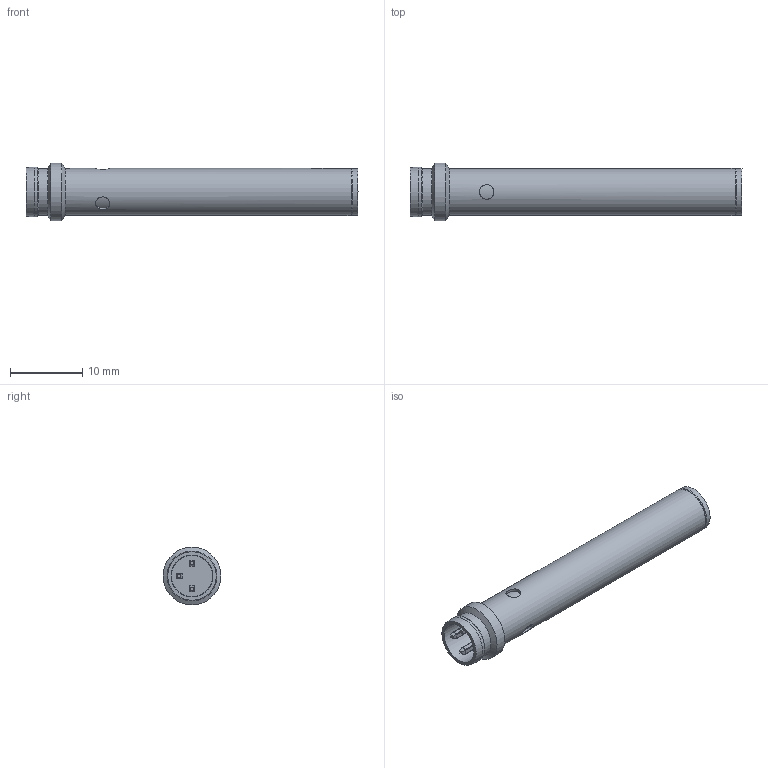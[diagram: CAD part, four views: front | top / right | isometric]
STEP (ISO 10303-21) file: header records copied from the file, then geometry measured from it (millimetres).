
FILE_DESCRIPTION( ( 'Unknown' ), '1' );
FILE_NAME( '//baumerholding.org/frauenfeld/bereich/BECH/Services/me_CAD/Solid Edge/Models/Dokumentationen/Induktiv/IxRx 06/Vereinfachte Modelle/Neutralformate/IFRD 06xxxA1_S35L.stp', 'Unknown', ( 'Unknown' ), ( 'Unknown' ), 'XStep 1.0', 'Unknown', ' ' );
FILE_SCHEMA( ( 'CONFIG_CONTROL_DESIGN' ) );
Length unit declared in the file: millimetre
Products named in the file (1): 153050
Bounding box: 45.9 x 8 x 8 mm (x, y, z)
Volume: 1432.1 mm3; surface area: 1175.7 mm2
Topology: 1 solids, 1 shells, 61 faces, 151 edges, 98 vertices
Faces by surface type: plane 30, cylinder 24, cone 5, torus 2
Full cylindrical faces by diameter (mm): 2 x3, 5.8 x1, 6.4 x1, 6.5 x2, 6.9 x1, 8 x1
Entity records: 1912 total; most frequent: CARTESIAN_POINT 482, DIRECTION 298, ORIENTED_EDGE 258, EDGE_CURVE 129, AXIS2_PLACEMENT_3D 113, VERTEX_POINT 93, EDGE_LOOP 84, FACE_OUTER_BOUND 72
